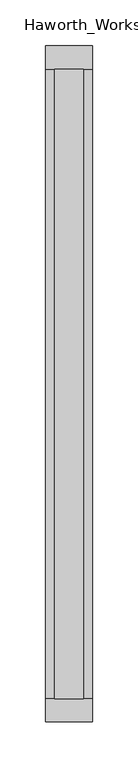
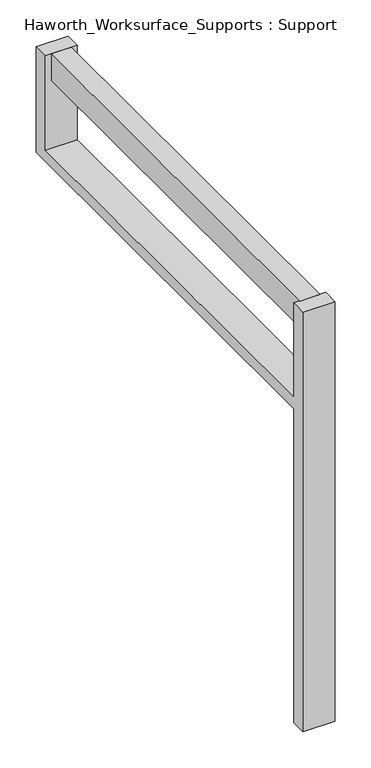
"""IFC4 building model written with IfcOpenShell, lengths in millimetres: furniture geometry, Haworth_Worksurface_Supports : Support."""

import ifcopenshell
import ifcopenshell.guid

model = None  # the IFC model being written
_history = None  # IfcOwnerHistory: only IFC2X3 demands one
_inside = {}  # id of a spatial element -> (the spatial element, [elements in it])
_under = {}  # id of a project, library or spatial element -> (it, [spatial elements below it])
_declared = {}  # id of a project -> (the project, [libraries it declares])
_typed = {}  # id of a type object -> (the type object, [elements of that type])
_made_of = {}  # id of a material, layer set ... -> (it, [elements and type objects made of it])


def new_model(schema):
    """Start an empty IFC model of exactly this schema.

    Asked for "IFC4X3", IfcOpenShell would pick the latest addendum, in which some entities
    have other attributes; the version numbers below select the first issue.
    IFC2X3 requires an IfcOwnerHistory on every rooted entity: one is made here for all.
    """
    global model, _history
    if schema == "IFC4X3":
        model = ifcopenshell.file(schema_version=(4, 3, 0, 0))
    else:
        model = ifcopenshell.file(schema=schema)
    _inside.clear()
    _under.clear()
    _declared.clear()
    _typed.clear()
    _made_of.clear()
    _history = None
    if model.schema == "IFC2X3":
        org = make("IfcOrganization", Name="unknown")
        user = make(
            "IfcPersonAndOrganization",
            ThePerson=make("IfcPerson", FamilyName="unknown"),
            TheOrganization=org,
        )
        app = make(
            "IfcApplication",
            ApplicationDeveloper=org,
            Version="unknown",
            ApplicationFullName="unknown",
            ApplicationIdentifier="unknown",
        )
        _history = make(
            "IfcOwnerHistory",
            OwningUser=user,
            OwningApplication=app,
            ChangeAction="ADDED",
            CreationDate=0,
        )
    return model


def make(cls, **values):
    """One entity of the class cls with the attributes given. An attribute that is None is left unset."""
    return model.create_entity(
        cls, **{name: value for name, value in values.items() if value is not None}
    )


def rooted(cls, **values):
    """An entity with a GlobalId (a new one), such as an element, a storey or a relation."""
    return make(cls, GlobalId=ifcopenshell.guid.new(), OwnerHistory=_history, **values)


def si_unit(unit_type, name, prefix=None):
    """IfcSIUnit, for example si_unit("LENGTHUNIT", "METRE", prefix="MILLI")."""
    return make("IfcSIUnit", UnitType=unit_type, Prefix=prefix, Name=name)


def assignment(units):
    """IfcUnitAssignment: the units of a project."""
    return None if units is None else make("IfcUnitAssignment", Units=units)


def point(xyz):
    """IfcCartesianPoint."""
    return None if xyz is None else make("IfcCartesianPoint", Coordinates=xyz)


def direction(xyz):
    """IfcDirection."""
    return None if xyz is None else make("IfcDirection", DirectionRatios=xyz)


def frame(location, z_axis=None, x_axis=None):
    """IfcAxis2Placement3D, a coordinate frame: its origin and axes. An axis left out is left unset."""
    return make(
        "IfcAxis2Placement3D",
        Location=point(location),
        Axis=direction(z_axis),
        RefDirection=direction(x_axis),
    )


def origin():
    """The frame at (0, 0, 0) with its axes left unset."""
    return frame((0.0, 0.0, 0.0))


def place(relative_to, where):
    """IfcLocalPlacement: puts the frame where relative to a parent placement (None: the world)."""
    return make(
        "IfcLocalPlacement", PlacementRelTo=relative_to, RelativePlacement=where
    )


def context(
    kind, dimensions, precision=None, world=None, true_north=None, identifier=None
):
    """IfcGeometricRepresentationContext, for example the 3D "Model" context."""
    return make(
        "IfcGeometricRepresentationContext",
        ContextIdentifier=identifier,
        ContextType=kind,
        CoordinateSpaceDimension=dimensions,
        Precision=precision,
        WorldCoordinateSystem=world,
        TrueNorth=true_north,
    )


def project(units=None, contexts=None):
    """IfcProject with its units and contexts."""
    return rooted(
        "IfcProject",
        Name="project",
        RepresentationContexts=contexts,
        UnitsInContext=assignment(units),
    )


def spatial(cls, under=None, at=None, **own):
    """A site, building, storey or space (cls), placed at a placement, below another one or the project."""
    s = rooted(cls, ObjectPlacement=at, **own)
    if under is not None:
        _under.setdefault(under.id(), (under, []))[1].append(s)
    return s


def polyline(points):
    """IfcPolyline through the points."""
    return make("IfcPolyline", Points=[point(p) for p in points])


def outline(outer, holes=None, kind="AREA"):
    """IfcArbitraryClosedProfileDef: a profile drawn as a closed curve; with holes, ...WithVoids."""
    if holes is None:
        return make("IfcArbitraryClosedProfileDef", ProfileType=kind, OuterCurve=outer)
    return make(
        "IfcArbitraryProfileDefWithVoids",
        ProfileType=kind,
        OuterCurve=outer,
        InnerCurves=holes,
    )


def extrude(swept, where, along, depth):
    """IfcExtrudedAreaSolid: the profile swept, set in the frame where, extruded along a direction by depth."""
    return make(
        "IfcExtrudedAreaSolid",
        SweptArea=swept,
        Position=where,
        ExtrudedDirection=direction(along),
        Depth=depth,
    )


def shape(context_of_items, identifier, shape_type, items):
    """IfcShapeRepresentation: the items that make up one representation, for example the "Body"."""
    return make(
        "IfcShapeRepresentation",
        ContextOfItems=context_of_items,
        RepresentationIdentifier=identifier,
        RepresentationType=shape_type,
        Items=items,
    )


def source(mapping_origin, context_of_items, identifier, shape_type, items):
    """IfcRepresentationMap: a shape defined once, which mapped items show again and again."""
    return make(
        "IfcRepresentationMap",
        MappingOrigin=mapping_origin,
        MappedRepresentation=shape(context_of_items, identifier, shape_type, items),
    )


def transform(
    local_origin,
    x_axis=None,
    y_axis=None,
    z_axis=None,
    scale=None,
    scale2=None,
    scale3=None,
    uniform=True,
):
    """IfcCartesianTransformationOperator3D, or its non-uniform kind. x_axis, y_axis, z_axis: its Axis1, 2, 3."""
    if uniform:
        return make(
            "IfcCartesianTransformationOperator3D",
            Axis1=direction(x_axis),
            Axis2=direction(y_axis),
            LocalOrigin=point(local_origin),
            Scale=scale,
            Axis3=direction(z_axis),
        )
    return make(
        "IfcCartesianTransformationOperator3DnonUniform",
        Axis1=direction(x_axis),
        Axis2=direction(y_axis),
        LocalOrigin=point(local_origin),
        Scale=scale,
        Axis3=direction(z_axis),
        Scale2=scale2,
        Scale3=scale3,
    )


def mapped(mapping_source, mapping_target):
    """IfcMappedItem: shows the shape of a source again, moved by a transform."""
    return make(
        "IfcMappedItem", MappingSource=mapping_source, MappingTarget=mapping_target
    )


def made_of(thing, what):
    """Note that an element or type object is made of a material, layer set ...; save() writes the relation."""
    if what is not None:
        _made_of.setdefault(what.id(), (what, []))[1].append(thing)
    return thing


def element(
    cls,
    number,
    at=None,
    inside=None,
    cuts=None,
    type_object=None,
    material=None,
    context=None,
    identifier="Body",
    shape_type=None,
    held_by="IfcProductDefinitionShape",
    body=None,
    shapes=None,
    **own,
):
    """One element of the class cls, such as IfcWall. Its Tag is "e" and its number.

    at: its placement. inside: the storey or other place that contains it. cuts: it is an
    opening in that element (IfcRelVoidsElement). A single representation is given by context,
    identifier, shape_type and body (its items); several are given by shapes. held_by: the class
    of the entity that holds the representations. save() writes the other relations.
    """
    e = rooted(cls, Tag="e%d" % number, ObjectPlacement=at, **own)
    if body is not None:
        shapes = [shape(context, identifier, shape_type, body)]
    if shapes is not None:
        e.Representation = make(held_by, Representations=shapes)
    if inside is not None:
        _inside.setdefault(inside.id(), (inside, []))[1].append(e)
    if cuts is not None:
        rooted(
            "IfcRelVoidsElement", RelatingBuildingElement=cuts, RelatedOpeningElement=e
        )
    if type_object is not None:
        _typed.setdefault(type_object.id(), (type_object, []))[1].append(e)
    return made_of(e, material)


def aggregate(whole, parts):
    """IfcRelAggregates: a whole, such as a stair, and the parts it consists of."""
    return rooted("IfcRelAggregates", RelatingObject=whole, RelatedObjects=parts)


def save(model, path):
    """Write the relations noted so far, then the file.

    IfcRelAggregates (storeys below a building ...), IfcRelContainedInSpatialStructure (elements
    in a storey), IfcRelDefinesByType, IfcRelAssociatesMaterial and IfcRelDeclares: one each for
    every whole, place, type object, material and project.
    """
    for whole, parts in _under.values():
        aggregate(whole, parts)
    for where, things in _inside.values():
        rooted(
            "IfcRelContainedInSpatialStructure",
            RelatedElements=things,
            RelatingStructure=where,
        )
    for kind, things in _typed.values():
        rooted("IfcRelDefinesByType", RelatedObjects=things, RelatingType=kind)
    for what, things in _made_of.values():
        rooted("IfcRelAssociatesMaterial", RelatedObjects=things, RelatingMaterial=what)
    for by, libraries in _declared.values():
        rooted("IfcRelDeclares", RelatingContext=by, RelatedDefinitions=libraries)
    model.write(path)


def haworth_worksurface_supports_support_8763f571(model_context):
    return source(origin(), model_context, "Body", "SweptSolid", [
        extrude(outline(polyline([(123.825, 355.6), (123.825, -330.2), (92.075, -330.2), (92.075, 355.6), (123.825, 355.6)])), frame((0.0, 0.0, 661.9875), z_axis=(0.0, 0.0, 1.0), x_axis=(1.0, 0.0, 0.0)), (0.0, 0.0, 1.0), 44.45),
        extrude(outline(polyline([(-330.2, 528.6375), (-330.2, 0.0), (-355.6, 0.0), (-355.6, 706.4375), (-330.2, 706.4375), (-330.2, 547.6875), (355.6, 547.6875), (355.6, 706.4375), (381.0, 706.4375), (381.0, 528.6375), (-330.2, 528.6375)])), frame((82.55, 0.0, 0.0), z_axis=(1.0, 0.0, 0.0), x_axis=(0.0, 1.0, 0.0)), (0.0, 0.0, 1.0), 50.8),
    ])


if __name__ == "__main__":
    model = new_model("IFC4")
    model_context = context("Model", 3, world=origin())
    ifc_project = project(units=[si_unit("LENGTHUNIT", "METRE", prefix="MILLI")], contexts=[model_context])
    site = spatial("IfcSite", under=ifc_project)
    building = spatial("IfcBuilding", under=site)
    placement = place(None, origin())
    haworth_worksurface_supports_support_shape = haworth_worksurface_supports_support_8763f571(model_context)
    element("IfcFurniture", 1, ObjectType="Haworth_Worksurface_Supports : Support", at=placement, inside=building, context=model_context, shape_type="MappedRepresentation", body=[
        mapped(haworth_worksurface_supports_support_shape, transform((0.0, 0.0, 0.0), x_axis=(1.0, 0.0, 0.0), y_axis=(0.0, 1.0, 0.0), z_axis=(0.0, 0.0, 1.0))),
    ])
    save(model, "model.ifc")
